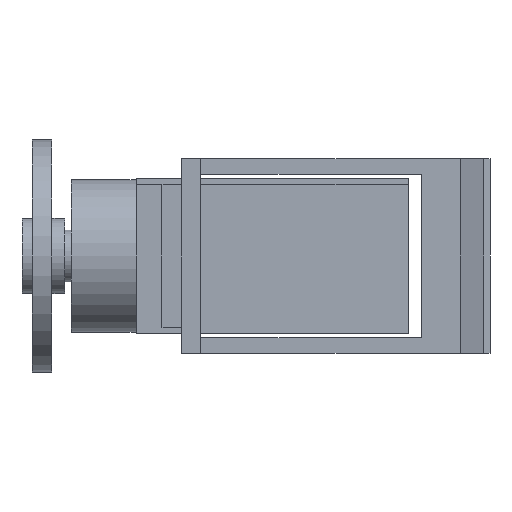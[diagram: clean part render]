
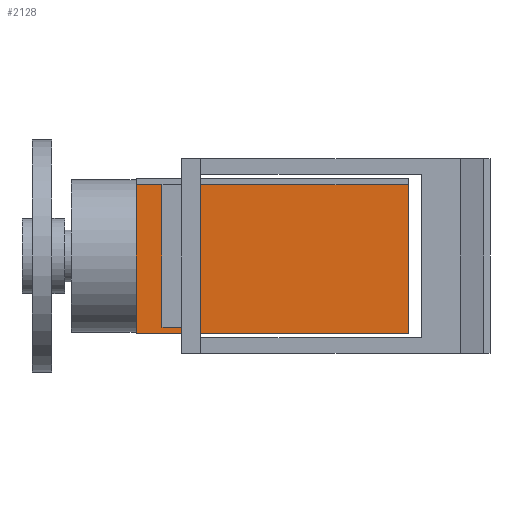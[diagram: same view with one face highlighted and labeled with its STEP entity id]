
A CAD part, left-side view. The second image highlights one B-rep face of the part: STEP entity #2128.
In plain terms, the highlighted planar face has unit normal (-1, 0, 0).
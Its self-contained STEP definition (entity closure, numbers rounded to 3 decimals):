
#78=PLANE('',#2284);
#187=FACE_OUTER_BOUND('',#313,.T.);
#313=EDGE_LOOP('',(#1628,#1629,#1630,#1631,#1632,#1633,#1634,#1635,#1636));
#403=LINE('',#3013,#676);
#404=LINE('',#3015,#677);
#419=LINE('',#3049,#692);
#421=LINE('',#3052,#694);
#422=LINE('',#3054,#695);
#435=LINE('',#3083,#708);
#441=LINE('',#3094,#714);
#447=LINE('',#3104,#720);
#448=LINE('',#3105,#721);
#676=VECTOR('',#2469,10.);
#677=VECTOR('',#2470,10.);
#692=VECTOR('',#2497,10.);
#694=VECTOR('',#2501,10.);
#695=VECTOR('',#2504,10.);
#708=VECTOR('',#2529,10.);
#714=VECTOR('',#2537,10.);
#720=VECTOR('',#2551,10.);
#721=VECTOR('',#2552,10.);
#990=VERTEX_POINT('',#3003);
#993=VERTEX_POINT('',#3012);
#994=VERTEX_POINT('',#3014);
#1004=VERTEX_POINT('',#3040);
#1005=VERTEX_POINT('',#3042);
#1006=VERTEX_POINT('',#3046);
#1007=VERTEX_POINT('',#3048);
#1016=VERTEX_POINT('',#3081);
#1017=VERTEX_POINT('',#3082);
#1204=EDGE_CURVE('',#993,#990,#403,.T.);
#1205=EDGE_CURVE('',#990,#994,#404,.T.);
#1221=EDGE_CURVE('',#1007,#1006,#419,.T.);
#1223=EDGE_CURVE('',#1006,#1004,#421,.T.);
#1224=EDGE_CURVE('',#1005,#1007,#422,.T.);
#1237=EDGE_CURVE('',#1016,#1017,#435,.T.);
#1243=EDGE_CURVE('',#993,#1017,#441,.T.);
#1249=EDGE_CURVE('',#1004,#994,#447,.T.);
#1250=EDGE_CURVE('',#1016,#1005,#448,.T.);
#1628=ORIENTED_EDGE('',*,*,#1223,.T.);
#1629=ORIENTED_EDGE('',*,*,#1249,.T.);
#1630=ORIENTED_EDGE('',*,*,#1205,.F.);
#1631=ORIENTED_EDGE('',*,*,#1204,.F.);
#1632=ORIENTED_EDGE('',*,*,#1243,.T.);
#1633=ORIENTED_EDGE('',*,*,#1237,.F.);
#1634=ORIENTED_EDGE('',*,*,#1250,.T.);
#1635=ORIENTED_EDGE('',*,*,#1224,.T.);
#1636=ORIENTED_EDGE('',*,*,#1221,.T.);
#2128=ADVANCED_FACE('',(#187),#78,.T.);
#2284=AXIS2_PLACEMENT_3D('',#3106,#2553,#2554);
#2469=DIRECTION('',(0.,0.,1.));
#2470=DIRECTION('',(0.,0.,1.));
#2497=DIRECTION('',(0.,1.,0.));
#2501=DIRECTION('',(0.,0.,1.));
#2504=DIRECTION('',(0.,0.,-1.));
#2529=DIRECTION('',(0.,0.,-1.));
#2537=DIRECTION('',(0.,-1.,0.));
#2551=DIRECTION('',(0.,1.,0.));
#2552=DIRECTION('',(0.,1.,0.));
#2553=DIRECTION('center_axis',(-1.,0.,0.));
#2554=DIRECTION('ref_axis',(0.,0.,1.));
#3003=CARTESIAN_POINT('',(-11.65,2.,0.));
#3012=CARTESIAN_POINT('',(-11.65,2.,-6.));
#3013=CARTESIAN_POINT('',(-11.65,2.,-6.));
#3014=CARTESIAN_POINT('',(-11.65,2.,5.5));
#3015=CARTESIAN_POINT('',(-11.65,2.,-6.));
#3040=CARTESIAN_POINT('',(-11.65,0.,5.5));
#3042=CARTESIAN_POINT('',(-11.65,-1.5,5.5));
#3046=CARTESIAN_POINT('',(-11.65,0.,-5.5));
#3048=CARTESIAN_POINT('',(-11.65,-1.5,-5.5));
#3049=CARTESIAN_POINT('',(-11.65,0.,-5.5));
#3052=CARTESIAN_POINT('',(-11.65,0.,-3.));
#3054=CARTESIAN_POINT('',(-11.65,-1.5,-3.));
#3081=CARTESIAN_POINT('',(-11.65,-19.,5.5));
#3082=CARTESIAN_POINT('',(-11.65,-19.,-6.));
#3083=CARTESIAN_POINT('',(-11.65,-19.,-6.));
#3094=CARTESIAN_POINT('',(-11.65,0.,-6.));
#3104=CARTESIAN_POINT('',(-11.65,0.,5.5));
#3105=CARTESIAN_POINT('',(-11.65,0.,5.5));
#3106=CARTESIAN_POINT('Origin',(-11.65,0.,-6.));
